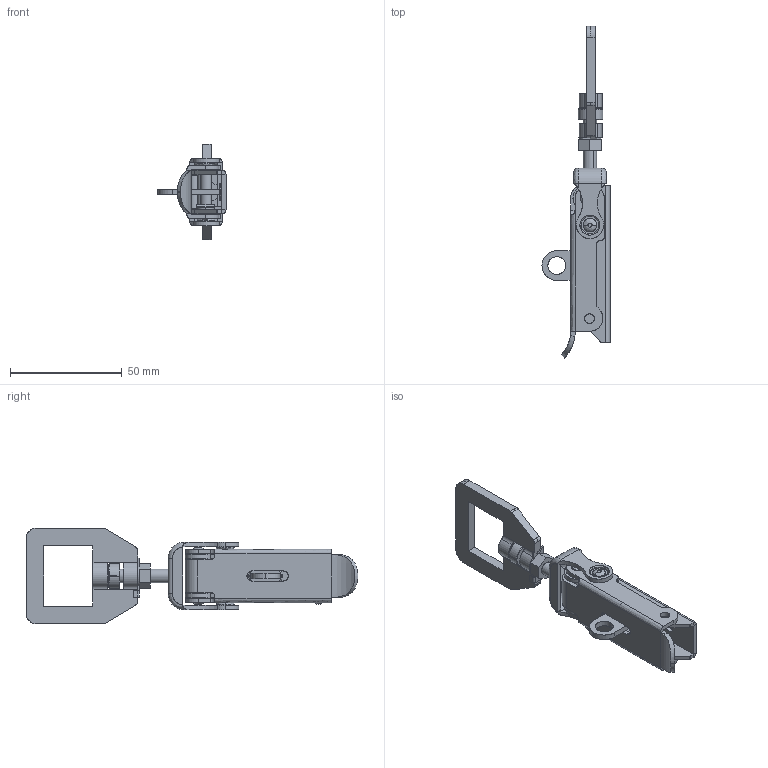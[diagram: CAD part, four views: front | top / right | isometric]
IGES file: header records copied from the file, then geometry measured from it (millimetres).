
Start section: SolidWorks IGES file using analytic representation for surfaces
Global section: file name: C:\Users\cbrechard\Desktop\GR 96-F.IGS; native system: SolidWorks 2017; preprocessor: SolidWorks 2017; author: cbrechard; date: 191202.163254; units: millimetre
Bounding box: 30.5 x 148.71 x 43 mm (x, y, z)
Surface area: 24109.6 mm2 (no closed solid volume)
Topology: 0 solids, 0 shells, 419 faces, 5590 edges, 5559 vertices
Faces by surface type: revolution 220, bspline 199
